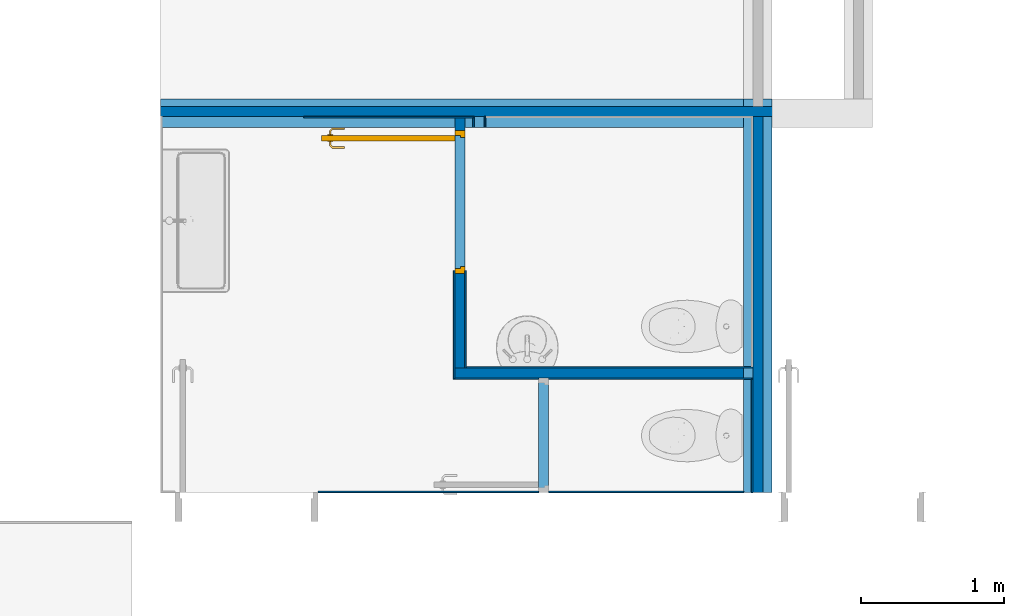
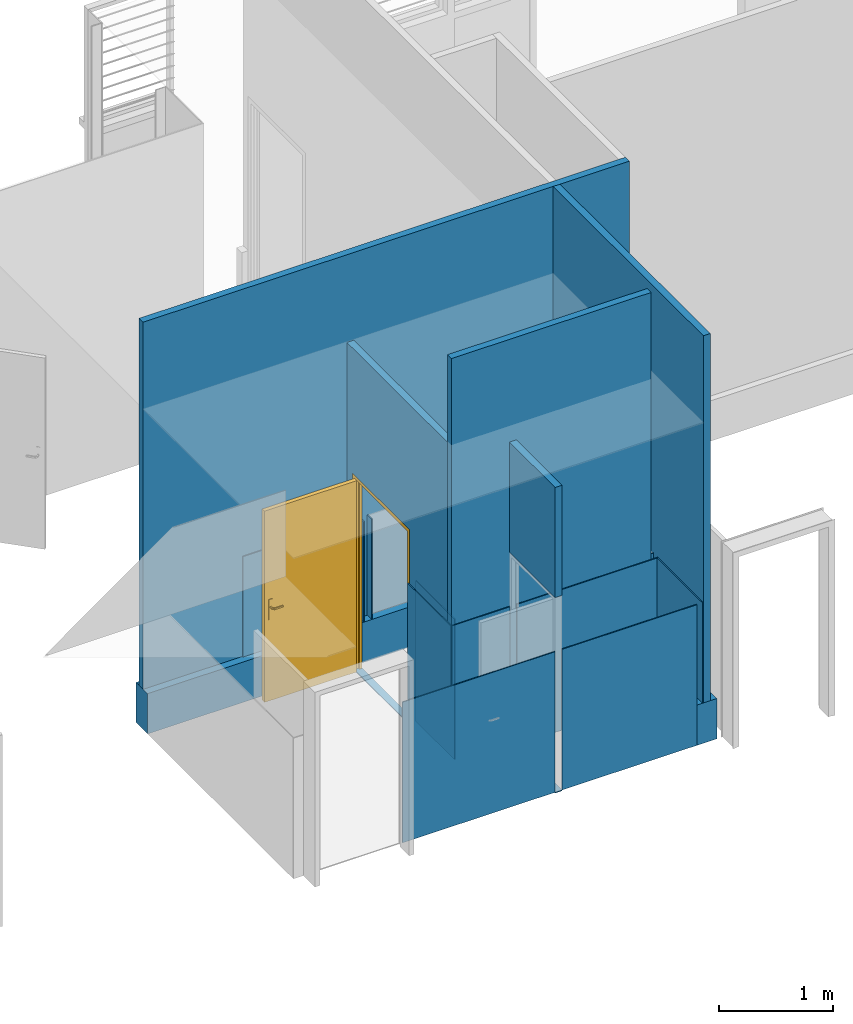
# One storey, part 5 of 18: 18 walls, 1 door, 7 openings.
"""IFC2X3 building model written with IfcOpenShell, lengths in metres."""

from ifc_helpers import new_model, entity, si_unit, converted_unit, derived_unit, direction, frame, frame_2d, origin, place, context, subcontext, project, spatial, polyline, rectangle, extrude, clip, bounded_halfspace, faceted_brep, source, transform, mapped, material, layer, layer_set, layer_usage, type_object, type_shapes, element, fill, save


model = new_model("IFC2X3")

# Units and contexts
model_context = context("Model", 3, precision=1e-05, world=origin(), true_north=direction((6.12303176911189e-17, 1.0)))
body_context = subcontext(model_context, "Body", "Model", "MODEL_VIEW")
ifc_project = project(units=[si_unit("LENGTHUNIT", "METRE"), si_unit("AREAUNIT", "SQUARE_METRE"), si_unit("VOLUMEUNIT", "CUBIC_METRE"), converted_unit("PLANEANGLEUNIT", "DEGREE", entity("IfcRatioMeasure", 0.0174532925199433), si_unit("PLANEANGLEUNIT", "RADIAN"), dimensions=[0, 0, 0, 0, 0, 0, 0]), si_unit("MASSUNIT", "GRAM", prefix="KILO"), derived_unit("MASSDENSITYUNIT", [(si_unit("MASSUNIT", "GRAM", prefix="KILO"), 1), (si_unit("LENGTHUNIT", "METRE"), -3)]), si_unit("TIMEUNIT", "SECOND"), si_unit("FREQUENCYUNIT", "HERTZ"), si_unit("THERMODYNAMICTEMPERATUREUNIT", "DEGREE_CELSIUS"), derived_unit("THERMALTRANSMITTANCEUNIT", [(si_unit("MASSUNIT", "GRAM", prefix="KILO"), 1), (si_unit("THERMODYNAMICTEMPERATUREUNIT", "KELVIN"), -1), (si_unit("TIMEUNIT", "SECOND"), -3)]), derived_unit("VOLUMETRICFLOWRATEUNIT", [(si_unit("LENGTHUNIT", "METRE"), 3), (si_unit("TIMEUNIT", "SECOND"), -1)]), si_unit("ELECTRICCURRENTUNIT", "AMPERE"), si_unit("ELECTRICVOLTAGEUNIT", "VOLT"), si_unit("POWERUNIT", "WATT"), si_unit("FORCEUNIT", "NEWTON", prefix="KILO"), si_unit("ILLUMINANCEUNIT", "LUX"), si_unit("LUMINOUSFLUXUNIT", "LUMEN"), si_unit("LUMINOUSINTENSITYUNIT", "CANDELA"), derived_unit("USERDEFINED", [(si_unit("MASSUNIT", "GRAM", prefix="KILO"), -1), (si_unit("LENGTHUNIT", "METRE"), -2), (si_unit("TIMEUNIT", "SECOND"), 3), (si_unit("LUMINOUSFLUXUNIT", "LUMEN"), 1)]), derived_unit("LINEARVELOCITYUNIT", [(si_unit("LENGTHUNIT", "METRE"), 1), (si_unit("TIMEUNIT", "SECOND"), -1)]), si_unit("PRESSUREUNIT", "PASCAL"), derived_unit("USERDEFINED", [(si_unit("LENGTHUNIT", "METRE"), -2), (si_unit("MASSUNIT", "GRAM", prefix="KILO"), 1), (si_unit("TIMEUNIT", "SECOND"), -2)])], contexts=[model_context])

# Site, building, storey
site_placement = place(None, origin())
site = spatial("IfcSite", under=ifc_project, at=site_placement, Name="Surface", CompositionType="ELEMENT")
building_placement = place(site_placement, origin())
building = spatial("IfcBuilding", under=site, at=building_placement, Name="ExPREF", CompositionType="ELEMENT")
storey_placement = place(building_placement, frame((0.0, 0.0, -4.62)))
storey = spatial("IfcBuildingStorey", under=building, at=storey_placement, Name="R-1", CompositionType="ELEMENT", Elevation=-4.62)

# Wall
ifc_material_1 = material(Name="AA-fermacell peint")
ifc_layer_1 = layer(ifc_material_1, 0.0125)
ifc_material_2 = material(Name="AA-isolant plancher")
ifc_layer_2 = layer(ifc_material_2, 0.045)
ifc_layer_3 = layer(ifc_material_1, 0.0125)
ifc_layer_set_1 = layer_set([ifc_layer_1, ifc_layer_2, ifc_layer_3], Name="Mur de base:Générique - Int. 70 mm")
ifc_layer_usage_1 = layer_usage(ifc_layer_set_1, "AXIS2", "NEGATIVE", 0.035)
wall_type_1 = type_object("IfcWallType", Name="Mur de base:Générique - Int. 70 mm", PredefinedType="STANDARD", material=ifc_layer_set_1)
wall_1_placement = place(storey_placement, frame((45.3197436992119, -190.598069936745, 0.43)))
element("IfcWallStandardCase", 1, at=wall_1_placement, inside=storey, type_object=wall_type_1, material=ifc_layer_usage_1, Name="Mur de base:Générique - Int. 70 mm", ObjectType="Mur de base:Générique - Int. 70 mm", context=body_context, shape_type="SweptSolid", body=[
    extrude(rectangle(XDim=4.90700000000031, YDim=0.0700000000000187, at=frame_2d((2.45350000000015, 0.0), x_axis=(-1.0, 0.0))), origin(), (0.0, 0.0, 1.0), 3.91499999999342),
])

# Wall, opening
ifc_layer_usage_2 = layer_usage(ifc_layer_set_1, "AXIS2", "NEGATIVE", 0.035)
wall_2_placement = place(storey_placement, frame((49.454743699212, -192.424651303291, -0.00999999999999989), z_axis=(0.0, 0.0, 1.0), x_axis=(-1.0, 0.0, 0.0)))
wall_2 = element("IfcWallStandardCase", 2, at=wall_2_placement, inside=storey, type_object=wall_type_1, material=ifc_layer_usage_2, Name="Mur de base:Générique - Int. 70 mm", ObjectType="Mur de base:Générique - Int. 70 mm", context=body_context, shape_type="SweptSolid", body=[
    extrude(rectangle(XDim=2.01499999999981, YDim=0.0699999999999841, at=frame_2d((1.07249999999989, 1.73264180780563e-14), x_axis=(-1.0, 0.0))), origin(), (0.0, 0.0, 1.0), 4.3549999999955),
])
opening_1_placement = place(wall_2_placement, frame((1.49499980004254, 0.835000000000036, 0.00999999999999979)))
element("IfcOpeningElement", 3, at=opening_1_placement, cuts=wall_2, Name="Mur de base:Générique - Int. 70 mm", ObjectType="Opening", context=body_context, shape_type="SweptSolid", body=[
    extrude(rectangle(XDim=2.075, YDim=0.0700000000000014, at=frame_2d((0.0, -3.33066907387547e-16), x_axis=(0.0, 1.0))), frame((-0.0350000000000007, -0.800000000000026, 1.0375), z_axis=(0.0, 1.0, 0.0), x_axis=(-1.0, 0.0, 0.0)), (0.0, 0.0, 1.0), 0.800000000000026),
])

# Wall, opening, door
ifc_layer_usage_3 = layer_usage(ifc_layer_set_1, "AXIS2", "POSITIVE", -0.035)
wall_3_placement = place(storey_placement, frame((47.4097436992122, -192.389651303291, -0.00999999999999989), z_axis=(0.0, 0.0, 1.0), x_axis=(0.0, 1.0, 0.0)))
wall_3 = element("IfcWallStandardCase", 4, at=wall_3_placement, inside=storey, type_object=wall_type_1, material=ifc_layer_usage_3, Name="Mur de base:Générique - Int. 70 mm", ObjectType="Mur de base:Générique - Int. 70 mm", context=body_context, shape_type="SweptSolid", body=[
    extrude(rectangle(XDim=1.75658136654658, YDim=0.0700000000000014, at=frame_2d((0.87829068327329, 0.0), x_axis=(-1.0, 0.0))), origin(), (0.0, 0.0, 1.0), 3.41999999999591),
])
opening_2_placement = place(wall_3_placement, frame((0.65958167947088, -0.035, 0.00999999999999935)))
opening_2 = element("IfcOpeningElement", 5, at=opening_2_placement, cuts=wall_3, Name="Porte intérieur bois:PP (0.93m x 2.04m):1", ObjectType="Opening", context=body_context, shape_type="SweptSolid", body=[
    extrude(rectangle(XDim=2.075, YDim=1.0, at=frame_2d((1.0375, 0.5), x_axis=(1.0, 0.0))), frame((0.0, 0.0, 0.0), z_axis=(0.0, 1.0, 0.0), x_axis=(0.0, 0.0, 1.0)), (0.0, 0.0, 1.0), 0.07),
])
ifc_material_3 = material(Name="AA-Blanc satiné")
door_style = type_object("IfcDoorStyle", Name="PP (0.93m x 2.04m)", ConstructionType="NOTDEFINED", OperationType="SINGLE_SWING_RIGHT", ParameterTakesPrecedence=False, Sizeable=False, material=ifc_material_3)
shared_shape = source(origin(), body_context, "Body", "Brep", [
    faceted_brep([(0.150000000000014, -0.867974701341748, 0.992219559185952), (0.150000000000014, -0.872025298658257, 0.99221955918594), (0.150000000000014, -0.876000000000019, 0.992999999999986), (0.150000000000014, -0.876000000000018, 1.007), (0.150000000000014, -0.872025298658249, 1.00778044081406), (0.150000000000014, -0.867974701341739, 1.00778044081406), (0.150000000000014, -0.863999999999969, 1.007), (0.150000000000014, -0.863999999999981, 0.993000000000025), (0.172485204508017, -0.863999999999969, 1.007), (0.172485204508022, -0.863999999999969, 0.993000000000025), (0.174131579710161, -0.867974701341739, 1.00778044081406), (0.175809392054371, -0.872025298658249, 1.00778044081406), (0.191995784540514, -0.855838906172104, 1.00778044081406), (0.187945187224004, -0.854161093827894, 1.00778044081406), (0.177455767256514, -0.876000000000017, 1.007), (0.177455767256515, -0.876000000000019, 0.992999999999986), (0.175809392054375, -0.872025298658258, 0.99221955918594), (0.174131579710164, -0.867974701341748, 0.992219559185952), (0.187945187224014, -0.854161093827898, 0.992219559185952), (0.191995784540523, -0.855838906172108, 0.99221955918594), (0.183970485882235, -0.852514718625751, 1.007), (0.183970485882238, -0.852514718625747, 0.993000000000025), (0.195970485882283, -0.857485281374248, 1.007), (0.195970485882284, -0.857485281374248, 0.992999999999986), (0.187945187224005, -0.769954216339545, 1.00778044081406), (0.191995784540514, -0.769954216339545, 1.00778044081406), (0.195970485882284, -0.769954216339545, 1.007), (0.195970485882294, -0.769954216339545, 0.992999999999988), (0.191995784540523, -0.769954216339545, 0.99221955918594), (0.187945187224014, -0.769954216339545, 0.992219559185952), (0.183970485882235, -0.769954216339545, 0.993000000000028), (0.183970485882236, -0.769954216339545, 1.007), (0.183970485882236, -0.811234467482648, 1.007), (0.183970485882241, -0.811234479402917, 0.993000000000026), (0.189970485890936, -0.812057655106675, 1.0078786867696), (0.195970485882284, -0.817554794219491, 1.007), (0.195970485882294, -0.8175547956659, 0.992999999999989), (0.189970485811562, -0.812057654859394, 0.992121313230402)], [[[0, 1, 2, 3, 4, 5, 6, 7]], [[8, 9, 7, 6]], [[5, 10, 8, 6]], [[5, 4, 11, 12, 13, 10]], [[3, 14, 11, 4]], [[14, 3, 2, 15]], [[2, 1, 16, 15]], [[1, 0, 17, 18, 19, 16]], [[0, 7, 9, 17]], [[20, 21, 9, 8]], [[8, 10, 13, 20]], [[14, 22, 12, 11]], [[23, 22, 14, 15]], [[15, 16, 19, 23]], [[17, 9, 21, 18]], [[24, 25, 26, 27, 28, 29, 30, 31]], [[21, 20, 32, 31, 30, 33]], [[34, 24, 32]], [[25, 34, 35]], [[13, 32, 20]], [[24, 31, 32]], [[25, 35, 26]], [[35, 12, 22]], [[34, 12, 35]], [[34, 13, 12]], [[34, 32, 13]], [[24, 34, 25]], [[22, 23, 36, 27, 26, 35]], [[37, 28, 36]], [[36, 28, 27]], [[36, 23, 19]], [[18, 33, 37]], [[33, 18, 21]], [[30, 29, 33]], [[37, 29, 28]], [[37, 33, 29]], [[37, 36, 19]], [[18, 37, 19]]]),
    faceted_brep([(0.100000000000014, -0.867974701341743, 1.00778044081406), (0.100000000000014, -0.872025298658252, 1.00778044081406), (0.100000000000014, -0.876000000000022, 1.00699999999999), (0.100000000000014, -0.876000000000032, 0.992999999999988), (0.100000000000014, -0.87202529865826, 0.99221955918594), (0.100000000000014, -0.867974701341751, 0.992219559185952), (0.100000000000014, -0.863999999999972, 0.993000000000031), (0.100000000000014, -0.863999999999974, 1.007), (0.0739954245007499, -0.872025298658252, 1.00778044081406), (0.0723490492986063, -0.876000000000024, 1.007), (0.0756732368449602, -0.867974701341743, 1.00778044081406), (0.0619971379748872, -0.854298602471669, 1.00778044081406), (0.0579465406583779, -0.855976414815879, 1.00778044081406), (0.0773196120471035, -0.863999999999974, 1.007), (0.0773196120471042, -0.863999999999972, 0.993000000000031), (0.0756732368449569, -0.867974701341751, 0.992219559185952), (0.0739954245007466, -0.87202529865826, 0.99221955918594), (0.0579465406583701, -0.855976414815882, 0.99221955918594), (0.0619971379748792, -0.854298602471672, 0.992219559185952), (0.0723490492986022, -0.876000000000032, 0.992999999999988), (0.053971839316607, -0.857622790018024, 1.007), (0.0659718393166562, -0.852652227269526, 1.007), (0.0659718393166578, -0.852652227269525, 0.993000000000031), (0.0539718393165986, -0.857622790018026, 0.992999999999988), (0.0539718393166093, -0.769981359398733, 1.007), (0.0579465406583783, -0.769981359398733, 1.00778044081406), (0.0619971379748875, -0.769981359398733, 1.00778044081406), (0.0659718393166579, -0.769981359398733, 1.00699999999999), (0.0659718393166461, -0.769981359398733, 0.993000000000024), (0.0619971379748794, -0.769981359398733, 0.992219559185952), (0.0579465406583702, -0.769981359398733, 0.99221955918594), (0.0539718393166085, -0.769981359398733, 0.992999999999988), (0.059971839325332, -0.812139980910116, 1.0078786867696), (0.0539718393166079, -0.817692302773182, 1.007), (0.065971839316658, -0.811316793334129, 1.007), (0.0659718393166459, -0.811316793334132, 0.993000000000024), (0.0599718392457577, -0.812139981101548, 0.992121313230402), (0.0539718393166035, -0.817692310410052, 0.992999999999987)], [[[0, 1, 2, 3, 4, 5, 6, 7]], [[2, 1, 8, 9]], [[1, 0, 10, 11, 12, 8]], [[0, 7, 13, 10]], [[14, 13, 7, 6]], [[5, 15, 14, 6]], [[5, 4, 16, 17, 18, 15]], [[3, 19, 16, 4]], [[9, 19, 3, 2]], [[9, 8, 12, 20]], [[10, 13, 21, 11]], [[22, 21, 13, 14]], [[14, 15, 18, 22]], [[16, 19, 23, 17]], [[20, 23, 19, 9]], [[24, 25, 26, 27, 28, 29, 30, 31]], [[32, 25, 33]], [[33, 25, 24]], [[33, 20, 12]], [[11, 34, 32]], [[34, 11, 21]], [[27, 26, 34]], [[32, 26, 25]], [[32, 34, 26]], [[32, 33, 12]], [[11, 32, 12]], [[21, 22, 35, 28, 27, 34]], [[36, 29, 35]], [[30, 36, 37]], [[18, 35, 22]], [[29, 28, 35]], [[30, 37, 31]], [[37, 17, 23]], [[36, 17, 37]], [[36, 18, 17]], [[36, 35, 18]], [[29, 36, 30]], [[23, 20, 33, 24, 31, 37]]]),
    faceted_brep([(0.145000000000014, -0.89, 0.870000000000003), (0.145000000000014, -0.89, 1.08), (0.145000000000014, -0.880352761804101, 1.08399601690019), (0.145000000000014, -0.870000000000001, 1.08535898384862), (0.145000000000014, -0.8596472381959, 1.08399601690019), (0.145000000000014, -0.850000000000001, 1.08), (0.145000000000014, -0.849999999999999, 0.870000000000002), (0.145000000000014, -0.859647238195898, 0.866003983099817), (0.145000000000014, -0.869999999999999, 0.86464101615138), (0.145000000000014, -0.8803527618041, 0.866003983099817), (0.150000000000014, -0.870000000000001, 1.08535898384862), (0.150000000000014, -0.880352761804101, 1.08399601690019), (0.150000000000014, -0.89, 1.08), (0.150000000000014, -0.889999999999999, 0.870000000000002), (0.150000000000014, -0.8803527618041, 0.866003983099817), (0.150000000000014, -0.869999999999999, 0.86464101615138), (0.150000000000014, -0.859647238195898, 0.866003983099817), (0.150000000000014, -0.849999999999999, 0.870000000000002), (0.150000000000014, -0.850000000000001, 1.08), (0.150000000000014, -0.8596472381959, 1.08399601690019)], [[[0, 1, 2, 3, 4, 5, 6, 7, 8, 9]], [[10, 11, 12, 13, 14, 15, 16, 17, 18, 19]], [[4, 19, 18, 5]], [[3, 10, 19, 4]], [[2, 11, 10, 3]], [[2, 1, 12, 11]], [[13, 12, 1, 0]], [[9, 14, 13, 0]], [[8, 15, 14, 9]], [[7, 16, 15, 8]], [[7, 6, 17, 16]], [[17, 6, 5, 18]]]),
    faceted_brep([(0.100000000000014, -0.89, 0.870000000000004), (0.100000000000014, -0.89, 1.08), (0.100000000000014, -0.880352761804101, 1.08399601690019), (0.100000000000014, -0.87, 1.08535898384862), (0.100000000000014, -0.8596472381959, 1.08399601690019), (0.100000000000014, -0.850000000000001, 1.08), (0.100000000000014, -0.849999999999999, 0.870000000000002), (0.100000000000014, -0.859647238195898, 0.866003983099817), (0.100000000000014, -0.869999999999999, 0.86464101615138), (0.100000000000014, -0.8803527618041, 0.866003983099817), (0.105000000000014, -0.89, 1.08), (0.105000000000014, -0.889999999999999, 0.870000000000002), (0.105000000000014, -0.8803527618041, 0.866003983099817), (0.105000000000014, -0.869999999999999, 0.86464101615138), (0.105000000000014, -0.859647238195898, 0.866003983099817), (0.105000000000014, -0.849999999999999, 0.870000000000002), (0.105000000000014, -0.850000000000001, 1.08), (0.105000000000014, -0.8596472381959, 1.08399601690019), (0.105000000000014, -0.87, 1.08535898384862), (0.105000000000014, -0.880352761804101, 1.08399601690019)], [[[0, 1, 2, 3, 4, 5, 6, 7, 8, 9]], [[10, 11, 12, 13, 14, 15, 16, 17, 18, 19]], [[9, 12, 11, 0]], [[8, 13, 12, 9]], [[7, 14, 13, 8]], [[7, 6, 15, 14]], [[15, 6, 5, 16]], [[4, 17, 16, 5]], [[3, 18, 17, 4]], [[2, 19, 18, 3]], [[2, 1, 10, 19]], [[11, 10, 1, 0]]]),
    faceted_brep([(0.145000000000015, -0.93, 2.04), (0.145000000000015, -0.93, 0.0), (0.145000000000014, 0.0, 0.0), (0.145000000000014, 0.0, 2.04), (0.105000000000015, -0.93, 2.04), (0.105000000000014, 0.0, 2.04), (0.105000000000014, 0.0, 0.0), (0.105000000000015, -0.93, 0.0)], [[[0, 1, 2, 3]], [[4, 5, 6, 7]], [[3, 5, 4, 0]], [[2, 6, 5, 3]], [[1, 7, 6, 2]], [[0, 4, 7, 1]]]),
    faceted_brep([(1.07000000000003, 0.0, 0.0), (1.03500000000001, 0.0, 0.0), (1.03500000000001, 0.04, 0.0), (1.02000000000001, 0.04, 0.0), (1.02000000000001, 0.0699999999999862, 0.0), (1.07000000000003, 0.0699999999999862, 0.0), (1.07000000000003, 0.0699999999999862, 2.07500000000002), (1.07000000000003, 0.0, 2.07500000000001), (1.02000000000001, 0.0699999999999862, 2.025), (0.120000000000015, 0.0699999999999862, 2.025), (0.120000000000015, 0.0699999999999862, 0.0), (0.0699999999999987, 0.0699999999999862, 0.0), (0.0699999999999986, 0.0699999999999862, 2.07500000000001), (1.02000000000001, 0.04, 2.025), (1.03500000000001, 0.04, 2.04), (0.105000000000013, 0.04, 2.04), (0.105000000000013, 0.04, 0.0), (0.120000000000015, 0.04, 0.0), (0.120000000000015, 0.04, 2.025), (1.03500000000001, 0.0, 2.04), (0.0699999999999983, 0.0, 2.07500000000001), (0.0699999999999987, 0.0, 0.0), (0.105000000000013, 0.0, 0.0), (0.105000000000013, 0.0, 2.04)], [[[0, 1, 2, 3, 4, 5]], [[5, 6, 7, 0]], [[4, 8, 9, 10, 11, 12, 6, 5]], [[3, 13, 8, 4]], [[2, 14, 15, 16, 17, 18, 13, 3]], [[1, 19, 14, 2]], [[0, 7, 20, 21, 22, 23, 19, 1]], [[12, 11, 21, 20]], [[21, 11, 10, 17, 16, 22]], [[18, 17, 10, 9]], [[23, 22, 16, 15]], [[6, 12, 20, 7]], [[13, 18, 9, 8]], [[19, 23, 15, 14]]]),
])
type_shapes(door_style, [shared_shape])
door_placement = place(opening_2_placement, frame((1.06999999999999, 0.0700000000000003, 0.0), z_axis=(0.0, 0.0, 1.0), x_axis=(-1.0, 0.0, 0.0)))
door = element("IfcDoor", 6, at=door_placement, inside=storey, type_object=door_style, material=ifc_material_3, Name="Porte intérieur bois:PP (0.93m x 2.04m)", ObjectType="PP (0.93m x 2.04m)", OverallHeight=2.075, OverallWidth=1.00000000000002, context=body_context, shape_type="MappedRepresentation", body=[
    mapped(shared_shape, transform((0.0, 0.0, 0.0), scale=1.0)),
])
fill(opening_2, door)

# Wall, opening
ifc_layer_usage_4 = layer_usage(ifc_layer_set_1, "AXIS2", "POSITIVE", -0.035)
wall_4_placement = place(storey_placement, frame((47.9947438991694, -192.459651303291, -0.00999999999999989), z_axis=(0.0, 0.0, 1.0), x_axis=(0.0, -1.0, 0.0)))
wall_4 = element("IfcWallStandardCase", 7, at=wall_4_placement, inside=storey, type_object=wall_type_1, material=ifc_layer_usage_4, Name="Mur de base:Générique - Int. 70 mm", ObjectType="Mur de base:Générique - Int. 70 mm", context=body_context, shape_type="SweptSolid", body=[
    extrude(rectangle(XDim=0.800000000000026, YDim=0.0700000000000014, at=frame_2d((0.400000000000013, 0.0), x_axis=(-1.0, 0.0))), origin(), (0.0, 0.0, 1.0), 3.25999999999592),
])
opening_3_placement = place(wall_4_placement, frame((0.800000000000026, 0.035, 0.00999999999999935)))
element("IfcOpeningElement", 8, at=opening_3_placement, cuts=wall_4, Name="Porte intérieur bois:PP (0.73m x 2.04m):1", ObjectType="Opening", context=body_context, shape_type="SweptSolid", body=[
    extrude(rectangle(XDim=2.075, YDim=0.799999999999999, at=frame_2d((1.0375, 0.400000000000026), x_axis=(1.0, 0.0))), frame((0.0, 0.0, 0.0), z_axis=(0.0, -1.0, 0.0), x_axis=(0.0, 0.0, 1.0)), (0.0, 0.0, 1.0), 0.07),
])

# Walls
ifc_layer_usage_5 = layer_usage(ifc_layer_set_1, "AXIS2", "NEGATIVE", 0.035)
wall_5_placement = place(storey_placement, frame((49.489743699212, -190.633069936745, 0.43), z_axis=(0.0, 0.0, 1.0), x_axis=(0.0, -1.0, 0.0)))
element("IfcWallStandardCase", 9, at=wall_5_placement, inside=storey, type_object=wall_type_1, material=ifc_layer_usage_5, Name="Mur de base:Générique - Int. 70 mm", ObjectType="Mur de base:Générique - Int. 70 mm", context=body_context, shape_type="Clipping", body=[
    clip(extrude(rectangle(XDim=2.62658136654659, YDim=0.0700000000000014, at=frame_2d((1.3132906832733, 0.0), x_axis=(-1.0, 0.0))), origin(), (0.0, 0.0, 1.0), 3.91499999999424), bounded_halfspace(frame((2.57658136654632, -0.0350000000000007, 3.91499999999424), z_axis=(0.0, 0.0, -1.0), x_axis=(1.0, 0.0, 0.0)), True, frame((2.57658136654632, -0.0350000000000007, 3.91499999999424)), polyline([(0.0, 0.0), (0.0500000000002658, 0.0), (0.0500000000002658, 0.0700000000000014), (0.0, 0.0700000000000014), (0.0, 0.0)]))),
])
ifc_material_4 = material(Name="AA-mur parpaing 20")
ifc_layer_4 = layer(ifc_material_4, 0.2)
ifc_layer_set_2 = layer_set([ifc_layer_4], Name="Mur de base:A-mur parpaing 20")
ifc_layer_usage_6 = layer_usage(ifc_layer_set_2, "AXIS2", "NEGATIVE", 0.1)
wall_type_2 = type_object("IfcWallType", Name="Mur de base:A-mur parpaing 20", PredefinedType="STANDARD", material=ifc_layer_set_2)
wall_6_placement = place(storey_placement, frame((49.389743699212, -190.61006962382, 0.0), z_axis=(0.0, 0.0, 1.0), x_axis=(-1.0, 0.0, 0.0)))
element("IfcWallStandardCase", 10, at=wall_6_placement, inside=storey, type_object=wall_type_2, material=ifc_layer_usage_6, Name="Mur de base:A-mur parpaing 20", ObjectType="Mur de base:A-mur parpaing 20", context=body_context, shape_type="SweptSolid", body=[
    extrude(rectangle(XDim=4.07000000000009, YDim=0.200000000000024, at=frame_2d((2.03500000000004, 0.0), x_axis=(-1.0, 0.0))), origin(), (0.0, 0.0, 1.0), 0.43),
])
ifc_layer_usage_7 = layer_usage(ifc_layer_set_2, "AXIS2", "NEGATIVE", 0.1)
wall_7_placement = place(storey_placement, frame((49.489743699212, -190.51006962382, 0.0), z_axis=(0.0, 0.0, 1.0), x_axis=(0.0, -1.0, 0.0)))
element("IfcWallStandardCase", 11, at=wall_7_placement, inside=storey, type_object=wall_type_2, material=ifc_layer_usage_7, Name="Mur de base:A-mur parpaing 20", ObjectType="Mur de base:A-mur parpaing 20", context=body_context, shape_type="SweptSolid", body=[
    extrude(rectangle(XDim=2.74958167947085, YDim=0.200000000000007, at=frame_2d((1.37479083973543, 0.0), x_axis=(-1.0, 0.0))), origin(), (0.0, 0.0, 1.0), 0.43),
])
ifc_material_5 = material(Name="AA-sol carrelage")
ifc_layer_5 = layer(ifc_material_5, 0.01)
ifc_layer_set_3 = layer_set([ifc_layer_5], Name="Mur de base:A-carrelage")
ifc_layer_usage_8 = layer_usage(ifc_layer_set_3, "AXIS2", "NEGATIVE", 0.005)
wall_type_3 = type_object("IfcWallType", Name="Mur de base:A-carrelage", PredefinedType="STANDARD", material=ifc_layer_set_3)
wall_8_placement = place(storey_placement, frame((49.454743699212, -192.384651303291, 0.0), z_axis=(0.0, 0.0, 1.0), x_axis=(-1.0, 0.0, 0.0)))
element("IfcWallStandardCase", 12, at=wall_8_placement, inside=storey, type_object=wall_type_3, material=ifc_layer_usage_8, Name="Mur de base:A-carrelage", ObjectType="Mur de base:A-carrelage", context=body_context, shape_type="SweptSolid", body=[
    extrude(rectangle(XDim=2.00999999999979, YDim=0.0100000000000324, at=frame_2d((1.0049999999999, 0.0), x_axis=(-1.0, 0.0))), origin(), (0.0, 0.0, 1.0), 1.5),
])
ifc_layer_usage_9 = layer_usage(ifc_layer_set_3, "AXIS2", "NEGATIVE", 0.005)
wall_9_placement = place(storey_placement, frame((47.4497436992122, -192.389651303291, 0.0), z_axis=(0.0, 0.0, 1.0), x_axis=(0.0, 1.0, 0.0)))
element("IfcWallStandardCase", 13, at=wall_9_placement, inside=storey, type_object=wall_type_3, material=ifc_layer_usage_9, Name="Mur de base:A-carrelage", ObjectType="Mur de base:A-carrelage", context=body_context, shape_type="SweptSolid", body=[
    extrude(rectangle(XDim=0.679581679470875, YDim=0.00999999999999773, at=frame_2d((0.339790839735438, 0.0), x_axis=(-1.0, 0.0))), origin(), (0.0, 0.0, 1.0), 1.5),
])
ifc_layer_usage_10 = layer_usage(ifc_layer_set_3, "AXIS2", "NEGATIVE", 0.005)
wall_10_placement = place(storey_placement, frame((47.3697436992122, -191.71006962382, 0.0), z_axis=(0.0, 0.0, 1.0), x_axis=(0.0, -1.0, 0.0)))
element("IfcWallStandardCase", 14, at=wall_10_placement, inside=storey, type_object=wall_type_3, material=ifc_layer_usage_10, Name="Mur de base:A-carrelage", ObjectType="Mur de base:A-carrelage", context=body_context, shape_type="SweptSolid", body=[
    extrude(rectangle(XDim=0.759581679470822, YDim=0.00999999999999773, at=frame_2d((0.379790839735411, 0.0), x_axis=(-1.0, 0.0))), origin(), (0.0, 0.0, 1.0), 1.5),
])

# Wall, opening
ifc_layer_usage_11 = layer_usage(ifc_layer_set_3, "AXIS2", "NEGATIVE", 0.005)
wall_11_placement = place(storey_placement, frame((47.3747436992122, -192.464651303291, 0.0)))
wall_11 = element("IfcWallStandardCase", 15, at=wall_11_placement, inside=storey, type_object=wall_type_3, material=ifc_layer_usage_11, Name="Mur de base:A-carrelage", ObjectType="Mur de base:A-carrelage", context=body_context, shape_type="SweptSolid", body=[
    extrude(rectangle(XDim=0.585000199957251, YDim=0.0100000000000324, at=frame_2d((0.292500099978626, 0.0), x_axis=(-1.0, 0.0))), origin(), (0.0, 0.0, 1.0), 1.5),
])
opening_4_placement = place(wall_11_placement, frame((0.58500019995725, -0.795000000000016, 0.0)))
element("IfcOpeningElement", 16, at=opening_4_placement, cuts=wall_11, Name="Mur de base:A-carrelage", ObjectType="Opening", context=body_context, shape_type="SweptSolid", body=[
    extrude(rectangle(XDim=2.075, YDim=0.0700000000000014, at=frame_2d((0.0, -3.33066907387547e-16), x_axis=(0.0, 1.0))), frame((0.0350000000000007, 0.0, 1.0375), z_axis=(0.0, 1.0, 0.0), x_axis=(1.0, 0.0, 0.0)), (0.0, 0.0, 1.0), 0.800000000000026),
])

ifc_layer_usage_12 = layer_usage(ifc_layer_set_3, "AXIS2", "NEGATIVE", 0.005)
wall_12_placement = place(storey_placement, frame((48.0297438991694, -192.464651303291, 0.0)))
wall_12 = element("IfcWallStandardCase", 17, at=wall_12_placement, inside=storey, type_object=wall_type_3, material=ifc_layer_usage_12, Name="Mur de base:A-carrelage", ObjectType="Mur de base:A-carrelage", context=body_context, shape_type="SweptSolid", body=[
    extrude(rectangle(XDim=1.42499980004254, YDim=0.0100000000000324, at=frame_2d((0.712499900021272, 0.0), x_axis=(-1.0, 0.0))), origin(), (0.0, 0.0, 1.0), 1.5),
])
opening_5_placement = place(wall_12_placement, frame((-0.0700000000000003, -0.795000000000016, 0.0)))
element("IfcOpeningElement", 18, at=opening_5_placement, cuts=wall_12, Name="Mur de base:A-carrelage", ObjectType="Opening", context=body_context, shape_type="SweptSolid", body=[
    extrude(rectangle(XDim=2.075, YDim=0.0700000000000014, at=frame_2d((0.0, -3.33066907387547e-16), x_axis=(0.0, 1.0))), frame((0.0350000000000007, 0.0, 1.0375), z_axis=(0.0, 1.0, 0.0), x_axis=(1.0, 0.0, 0.0)), (0.0, 0.0, 1.0), 0.800000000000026),
])

ifc_layer_usage_13 = layer_usage(ifc_layer_set_3, "AXIS2", "NEGATIVE", 0.005)
wall_13_placement = place(storey_placement, frame((49.454743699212, -193.254651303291, 0.0), z_axis=(0.0, 0.0, 1.0), x_axis=(-1.0, 0.0, 0.0)))
wall_13 = element("IfcWallStandardCase", 19, at=wall_13_placement, inside=storey, type_object=wall_type_3, material=ifc_layer_usage_13, Name="Mur de base:A-carrelage", ObjectType="Mur de base:A-carrelage", context=body_context, shape_type="SweptSolid", body=[
    extrude(rectangle(XDim=1.35999980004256, YDim=0.00999999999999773, at=frame_2d((0.744999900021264, 1.73259843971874e-14), x_axis=(-1.0, 0.0))), origin(), (0.0, 0.0, 1.0), 1.5),
])
opening_6_placement = place(wall_13_placement, frame((1.49499980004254, 0.00499999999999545, 0.0)))
element("IfcOpeningElement", 20, at=opening_6_placement, cuts=wall_13, Name="Mur de base:A-carrelage", ObjectType="Opening", context=body_context, shape_type="SweptSolid", body=[
    extrude(rectangle(XDim=2.075, YDim=0.0700000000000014, at=frame_2d((0.0, -3.33066907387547e-16), x_axis=(0.0, 1.0))), frame((-0.0350000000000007, -0.800000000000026, 1.0375), z_axis=(0.0, 1.0, 0.0), x_axis=(-1.0, 0.0, 0.0)), (0.0, 0.0, 1.0), 0.800000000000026),
])

ifc_layer_usage_14 = layer_usage(ifc_layer_set_3, "AXIS2", "NEGATIVE", 0.005)
wall_14_placement = place(storey_placement, frame((47.9597438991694, -193.254651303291, 0.0), z_axis=(0.0, 0.0, 1.0), x_axis=(-1.0, 0.0, 0.0)))
wall_14 = element("IfcWallStandardCase", 21, at=wall_14_placement, inside=storey, type_object=wall_type_3, material=ifc_layer_usage_14, Name="Mur de base:A-carrelage", ObjectType="Mur de base:A-carrelage", context=body_context, shape_type="SweptSolid", body=[
    extrude(rectangle(XDim=1.54000019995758, YDim=0.0100000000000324, at=frame_2d((0.77000009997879, 0.0), x_axis=(-1.0, 0.0))), origin(), (0.0, 0.0, 1.0), 1.5),
])
opening_7_placement = place(wall_14_placement, frame((0.0, 0.00499999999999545, 0.0)))
element("IfcOpeningElement", 22, at=opening_7_placement, cuts=wall_14, Name="Mur de base:A-carrelage", ObjectType="Opening", context=body_context, shape_type="SweptSolid", body=[
    extrude(rectangle(XDim=2.075, YDim=0.0700000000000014, at=frame_2d((0.0, -3.33066907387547e-16), x_axis=(0.0, 1.0))), frame((-0.0350000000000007, -0.800000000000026, 1.0375), z_axis=(0.0, 1.0, 0.0), x_axis=(-1.0, 0.0, 0.0)), (0.0, 0.0, 1.0), 0.800000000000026),
])

# Walls
ifc_layer_usage_15 = layer_usage(ifc_layer_set_3, "AXIS2", "NEGATIVE", 0.005)
wall_15_placement = place(storey_placement, frame((49.449743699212, -192.469651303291, 0.43), z_axis=(0.0, 0.0, 1.0), x_axis=(0.0, -1.0, 0.0)))
element("IfcWallStandardCase", 23, at=wall_15_placement, inside=storey, type_object=wall_type_3, material=ifc_layer_usage_15, Name="Mur de base:A-carrelage", ObjectType="Mur de base:A-carrelage", context=body_context, shape_type="SweptSolid", body=[
    extrude(rectangle(XDim=0.790000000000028, YDim=0.00999999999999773, at=frame_2d((0.395000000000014, 0.0), x_axis=(-1.0, 0.0))), origin(), (0.0, 0.0, 1.0), 1.07),
])
ifc_layer_usage_16 = layer_usage(ifc_layer_set_3, "AXIS2", "NEGATIVE", 0.005)
wall_16_placement = place(storey_placement, frame((47.5847436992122, -190.71006962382, 0.43), z_axis=(0.0, 0.0, 1.0), x_axis=(0.0, 1.0, 0.0)))
element("IfcWallStandardCase", 24, at=wall_16_placement, inside=storey, type_object=wall_type_3, material=ifc_layer_usage_16, Name="Mur de base:A-carrelage", ObjectType="Mur de base:A-carrelage", context=body_context, shape_type="SweptSolid", body=[
    extrude(rectangle(XDim=0.076999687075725, YDim=0.00999999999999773, at=frame_2d((0.0384998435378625, 0.0), x_axis=(-1.0, 0.0))), origin(), (0.0, 0.0, 1.0), 1.07),
])
ifc_layer_usage_17 = layer_usage(ifc_layer_set_3, "AXIS2", "NEGATIVE", 0.005)
wall_17_placement = place(storey_placement, frame((46.3197436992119, -190.638069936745, 0.43)))
element("IfcWallStandardCase", 25, at=wall_17_placement, inside=storey, type_object=wall_type_3, material=ifc_layer_usage_17, Name="Mur de base:A-carrelage", ObjectType="Mur de base:A-carrelage", context=body_context, shape_type="SweptSolid", body=[
    extrude(rectangle(XDim=1.19000000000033, YDim=0.0100000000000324, at=frame_2d((0.595000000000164, 0.0), x_axis=(-1.0, 0.0))), origin(), (0.0, 0.0, 1.0), 1.07),
])
ifc_layer_usage_18 = layer_usage(ifc_layer_set_3, "AXIS2", "NEGATIVE", 0.005)
wall_18_placement = place(storey_placement, frame((47.5047436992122, -190.643069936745, 0.43), z_axis=(0.0, 0.0, 1.0), x_axis=(0.0, -1.0, 0.0)))
element("IfcWallStandardCase", 26, at=wall_18_placement, inside=storey, type_object=wall_type_3, material=ifc_layer_usage_18, Name="Mur de base:A-carrelage", ObjectType="Mur de base:A-carrelage", context=body_context, shape_type="SweptSolid", body=[
    extrude(rectangle(XDim=0.0669996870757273, YDim=0.00999999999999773, at=frame_2d((0.0334998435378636, 0.0), x_axis=(-1.0, 0.0))), origin(), (0.0, 0.0, 1.0), 1.07),
])

save(model, "model.ifc")
